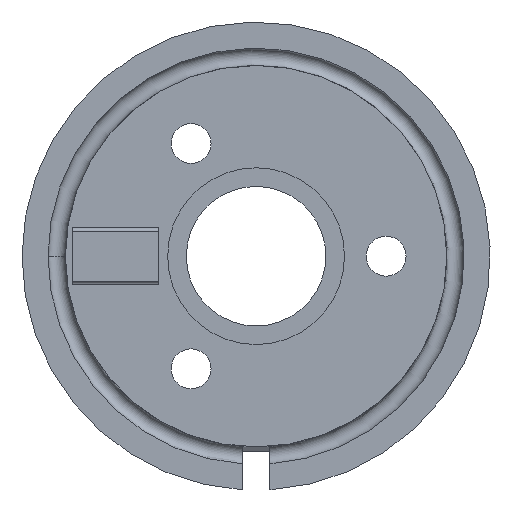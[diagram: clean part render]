
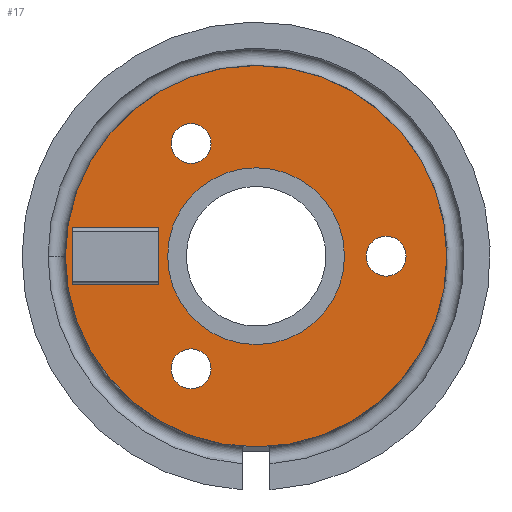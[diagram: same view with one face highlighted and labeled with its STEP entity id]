
A CAD part, left-side view. The second image highlights one B-rep face of the part: STEP entity #17.
In plain terms, the highlighted planar face has unit normal (-1, 0, 0).
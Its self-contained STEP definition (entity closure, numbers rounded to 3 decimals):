
#17 = ADVANCED_FACE('',(#18,#54,#85,#199,#230,#261),#31,.F.);
#18 = FACE_BOUND('',#19,.T.);
#19 = EDGE_LOOP('',(#20));
#20 = ORIENTED_EDGE('',*,*,#21,.F.);
#21 = EDGE_CURVE('',#22,#22,#24,.T.);
#22 = VERTEX_POINT('',#23);
#23 = CARTESIAN_POINT('',(38.6,14.,-17.));
#24 = SURFACE_CURVE('',#25,(#30,#42),.PCURVE_S1.);
#25 = CIRCLE('',#26,11.);
#26 = AXIS2_PLACEMENT_3D('',#27,#28,#29);
#27 = CARTESIAN_POINT('',(38.6,3.,-17.));
#28 = DIRECTION('',(1.,0.,0.));
#29 = DIRECTION('',(0.,1.,0.));
#30 = PCURVE('',#31,#36);
#31 = PLANE('',#32);
#32 = AXIS2_PLACEMENT_3D('',#33,#34,#35);
#33 = CARTESIAN_POINT('',(38.6,3.,-17.));
#34 = DIRECTION('',(1.,0.,0.));
#35 = DIRECTION('',(0.,1.,0.));
#36 = DEFINITIONAL_REPRESENTATION('',(#37),#41);
#37 = CIRCLE('',#38,11.);
#38 = AXIS2_PLACEMENT_2D('',#39,#40);
#39 = CARTESIAN_POINT('',(0.,0.));
#40 = DIRECTION('',(1.,-0.));
#41 = ( GEOMETRIC_REPRESENTATION_CONTEXT(2) 
PARAMETRIC_REPRESENTATION_CONTEXT() REPRESENTATION_CONTEXT('2D SPACE',''
  ) );
#42 = PCURVE('',#43,#48);
#43 = CYLINDRICAL_SURFACE('',#44,11.);
#44 = AXIS2_PLACEMENT_3D('',#45,#46,#47);
#45 = CARTESIAN_POINT('',(38.6,3.,-17.));
#46 = DIRECTION('',(1.,0.,0.));
#47 = DIRECTION('',(0.,1.,0.));
#48 = DEFINITIONAL_REPRESENTATION('',(#49),#53);
#49 = LINE('',#50,#51);
#50 = CARTESIAN_POINT('',(0.,0.));
#51 = VECTOR('',#52,1.);
#52 = DIRECTION('',(1.,0.));
#53 = ( GEOMETRIC_REPRESENTATION_CONTEXT(2) 
PARAMETRIC_REPRESENTATION_CONTEXT() REPRESENTATION_CONTEXT('2D SPACE',''
  ) );
#54 = FACE_BOUND('',#55,.T.);
#55 = EDGE_LOOP('',(#56));
#56 = ORIENTED_EDGE('',*,*,#57,.T.);
#57 = EDGE_CURVE('',#58,#58,#60,.T.);
#58 = VERTEX_POINT('',#59);
#59 = CARTESIAN_POINT('',(38.6,6.75,-24.645));
#60 = SURFACE_CURVE('',#61,(#66,#73),.PCURVE_S1.);
#61 = CIRCLE('',#62,1.15);
#62 = AXIS2_PLACEMENT_3D('',#63,#64,#65);
#63 = CARTESIAN_POINT('',(38.6,6.75,-23.495));
#64 = DIRECTION('',(1.,0.,0.));
#65 = DIRECTION('',(0.,0.,-1.));
#66 = PCURVE('',#31,#67);
#67 = DEFINITIONAL_REPRESENTATION('',(#68),#72);
#68 = CIRCLE('',#69,1.15);
#69 = AXIS2_PLACEMENT_2D('',#70,#71);
#70 = CARTESIAN_POINT('',(3.75,-6.495));
#71 = DIRECTION('',(-0.,-1.));
#72 = ( GEOMETRIC_REPRESENTATION_CONTEXT(2) 
PARAMETRIC_REPRESENTATION_CONTEXT() REPRESENTATION_CONTEXT('2D SPACE',''
  ) );
#73 = PCURVE('',#74,#79);
#74 = CYLINDRICAL_SURFACE('',#75,1.15);
#75 = AXIS2_PLACEMENT_3D('',#76,#77,#78);
#76 = CARTESIAN_POINT('',(36.6,6.75,-23.495));
#77 = DIRECTION('',(1.,0.,0.));
#78 = DIRECTION('',(0.,0.,-1.));
#79 = DEFINITIONAL_REPRESENTATION('',(#80),#84);
#80 = LINE('',#81,#82);
#81 = CARTESIAN_POINT('',(0.,2.));
#82 = VECTOR('',#83,1.);
#83 = DIRECTION('',(1.,0.));
#84 = ( GEOMETRIC_REPRESENTATION_CONTEXT(2) 
PARAMETRIC_REPRESENTATION_CONTEXT() REPRESENTATION_CONTEXT('2D SPACE',''
  ) );
#85 = FACE_BOUND('',#86,.T.);
#86 = EDGE_LOOP('',(#87,#117,#145,#173));
#87 = ORIENTED_EDGE('',*,*,#88,.T.);
#88 = EDGE_CURVE('',#89,#91,#93,.T.);
#89 = VERTEX_POINT('',#90);
#90 = CARTESIAN_POINT('',(38.6,8.6,-15.35));
#91 = VERTEX_POINT('',#92);
#92 = CARTESIAN_POINT('',(38.6,8.6,-18.65));
#93 = SURFACE_CURVE('',#94,(#98,#105),.PCURVE_S1.);
#94 = LINE('',#95,#96);
#95 = CARTESIAN_POINT('',(38.6,8.6,-15.35));
#96 = VECTOR('',#97,1.);
#97 = DIRECTION('',(0.,0.,-1.));
#98 = PCURVE('',#31,#99);
#99 = DEFINITIONAL_REPRESENTATION('',(#100),#104);
#100 = LINE('',#101,#102);
#101 = CARTESIAN_POINT('',(5.6,1.65));
#102 = VECTOR('',#103,1.);
#103 = DIRECTION('',(-0.,-1.));
#104 = ( GEOMETRIC_REPRESENTATION_CONTEXT(2) 
PARAMETRIC_REPRESENTATION_CONTEXT() REPRESENTATION_CONTEXT('2D SPACE',''
  ) );
#105 = PCURVE('',#106,#111);
#106 = PLANE('',#107);
#107 = AXIS2_PLACEMENT_3D('',#108,#109,#110);
#108 = CARTESIAN_POINT('',(37.,8.6,-18.45));
#109 = DIRECTION('',(0.,1.,0.));
#110 = DIRECTION('',(0.,0.,1.));
#111 = DEFINITIONAL_REPRESENTATION('',(#112),#116);
#112 = LINE('',#113,#114);
#113 = CARTESIAN_POINT('',(3.1,1.6));
#114 = VECTOR('',#115,1.);
#115 = DIRECTION('',(-1.,0.));
#116 = ( GEOMETRIC_REPRESENTATION_CONTEXT(2) 
PARAMETRIC_REPRESENTATION_CONTEXT() REPRESENTATION_CONTEXT('2D SPACE',''
  ) );
#117 = ORIENTED_EDGE('',*,*,#118,.T.);
#118 = EDGE_CURVE('',#91,#119,#121,.T.);
#119 = VERTEX_POINT('',#120);
#120 = CARTESIAN_POINT('',(38.6,13.6,-18.65));
#121 = SURFACE_CURVE('',#122,(#126,#133),.PCURVE_S1.);
#122 = LINE('',#123,#124);
#123 = CARTESIAN_POINT('',(38.6,8.6,-18.65));
#124 = VECTOR('',#125,1.);
#125 = DIRECTION('',(0.,1.,0.));
#126 = PCURVE('',#31,#127);
#127 = DEFINITIONAL_REPRESENTATION('',(#128),#132);
#128 = LINE('',#129,#130);
#129 = CARTESIAN_POINT('',(5.6,-1.65));
#130 = VECTOR('',#131,1.);
#131 = DIRECTION('',(1.,-0.));
#132 = ( GEOMETRIC_REPRESENTATION_CONTEXT(2) 
PARAMETRIC_REPRESENTATION_CONTEXT() REPRESENTATION_CONTEXT('2D SPACE',''
  ) );
#133 = PCURVE('',#134,#139);
#134 = CYLINDRICAL_SURFACE('',#135,0.2);
#135 = AXIS2_PLACEMENT_3D('',#136,#137,#138);
#136 = CARTESIAN_POINT('',(38.4,8.6,-18.65));
#137 = DIRECTION('',(0.,1.,0.));
#138 = DIRECTION('',(1.,0.,-0.));
#139 = DEFINITIONAL_REPRESENTATION('',(#140),#144);
#140 = LINE('',#141,#142);
#141 = CARTESIAN_POINT('',(-0.,0.));
#142 = VECTOR('',#143,1.);
#143 = DIRECTION('',(-0.,1.));
#144 = ( GEOMETRIC_REPRESENTATION_CONTEXT(2) 
PARAMETRIC_REPRESENTATION_CONTEXT() REPRESENTATION_CONTEXT('2D SPACE',''
  ) );
#145 = ORIENTED_EDGE('',*,*,#146,.T.);
#146 = EDGE_CURVE('',#119,#147,#149,.T.);
#147 = VERTEX_POINT('',#148);
#148 = CARTESIAN_POINT('',(38.6,13.6,-15.35));
#149 = SURFACE_CURVE('',#150,(#154,#161),.PCURVE_S1.);
#150 = LINE('',#151,#152);
#151 = CARTESIAN_POINT('',(38.6,13.6,-18.65));
#152 = VECTOR('',#153,1.);
#153 = DIRECTION('',(0.,0.,1.));
#154 = PCURVE('',#31,#155);
#155 = DEFINITIONAL_REPRESENTATION('',(#156),#160);
#156 = LINE('',#157,#158);
#157 = CARTESIAN_POINT('',(10.6,-1.65));
#158 = VECTOR('',#159,1.);
#159 = DIRECTION('',(-0.,1.));
#160 = ( GEOMETRIC_REPRESENTATION_CONTEXT(2) 
PARAMETRIC_REPRESENTATION_CONTEXT() REPRESENTATION_CONTEXT('2D SPACE',''
  ) );
#161 = PCURVE('',#162,#167);
#162 = PLANE('',#163);
#163 = AXIS2_PLACEMENT_3D('',#164,#165,#166);
#164 = CARTESIAN_POINT('',(37.,13.6,-18.45));
#165 = DIRECTION('',(0.,1.,0.));
#166 = DIRECTION('',(0.,0.,1.));
#167 = DEFINITIONAL_REPRESENTATION('',(#168),#172);
#168 = LINE('',#169,#170);
#169 = CARTESIAN_POINT('',(-0.2,1.6));
#170 = VECTOR('',#171,1.);
#171 = DIRECTION('',(1.,0.));
#172 = ( GEOMETRIC_REPRESENTATION_CONTEXT(2) 
PARAMETRIC_REPRESENTATION_CONTEXT() REPRESENTATION_CONTEXT('2D SPACE',''
  ) );
#173 = ORIENTED_EDGE('',*,*,#174,.F.);
#174 = EDGE_CURVE('',#89,#147,#175,.T.);
#175 = SURFACE_CURVE('',#176,(#180,#187),.PCURVE_S1.);
#176 = LINE('',#177,#178);
#177 = CARTESIAN_POINT('',(38.6,8.6,-15.35));
#178 = VECTOR('',#179,1.);
#179 = DIRECTION('',(0.,1.,0.));
#180 = PCURVE('',#31,#181);
#181 = DEFINITIONAL_REPRESENTATION('',(#182),#186);
#182 = LINE('',#183,#184);
#183 = CARTESIAN_POINT('',(5.6,1.65));
#184 = VECTOR('',#185,1.);
#185 = DIRECTION('',(1.,-0.));
#186 = ( GEOMETRIC_REPRESENTATION_CONTEXT(2) 
PARAMETRIC_REPRESENTATION_CONTEXT() REPRESENTATION_CONTEXT('2D SPACE',''
  ) );
#187 = PCURVE('',#188,#193);
#188 = CYLINDRICAL_SURFACE('',#189,0.2);
#189 = AXIS2_PLACEMENT_3D('',#190,#191,#192);
#190 = CARTESIAN_POINT('',(38.4,8.6,-15.35));
#191 = DIRECTION('',(0.,1.,0.));
#192 = DIRECTION('',(1.,0.,-0.));
#193 = DEFINITIONAL_REPRESENTATION('',(#194),#198);
#194 = LINE('',#195,#196);
#195 = CARTESIAN_POINT('',(0.,0.));
#196 = VECTOR('',#197,1.);
#197 = DIRECTION('',(0.,1.));
#198 = ( GEOMETRIC_REPRESENTATION_CONTEXT(2) 
PARAMETRIC_REPRESENTATION_CONTEXT() REPRESENTATION_CONTEXT('2D SPACE',''
  ) );
#199 = FACE_BOUND('',#200,.T.);
#200 = EDGE_LOOP('',(#201));
#201 = ORIENTED_EDGE('',*,*,#202,.T.);
#202 = EDGE_CURVE('',#203,#203,#205,.T.);
#203 = VERTEX_POINT('',#204);
#204 = CARTESIAN_POINT('',(38.6,6.75,-11.655));
#205 = SURFACE_CURVE('',#206,(#211,#218),.PCURVE_S1.);
#206 = CIRCLE('',#207,1.15);
#207 = AXIS2_PLACEMENT_3D('',#208,#209,#210);
#208 = CARTESIAN_POINT('',(38.6,6.75,-10.505));
#209 = DIRECTION('',(1.,0.,0.));
#210 = DIRECTION('',(0.,0.,-1.));
#211 = PCURVE('',#31,#212);
#212 = DEFINITIONAL_REPRESENTATION('',(#213),#217);
#213 = CIRCLE('',#214,1.15);
#214 = AXIS2_PLACEMENT_2D('',#215,#216);
#215 = CARTESIAN_POINT('',(3.75,6.495));
#216 = DIRECTION('',(-0.,-1.));
#217 = ( GEOMETRIC_REPRESENTATION_CONTEXT(2) 
PARAMETRIC_REPRESENTATION_CONTEXT() REPRESENTATION_CONTEXT('2D SPACE',''
  ) );
#218 = PCURVE('',#219,#224);
#219 = CYLINDRICAL_SURFACE('',#220,1.15);
#220 = AXIS2_PLACEMENT_3D('',#221,#222,#223);
#221 = CARTESIAN_POINT('',(36.6,6.75,-10.505));
#222 = DIRECTION('',(1.,0.,0.));
#223 = DIRECTION('',(0.,0.,-1.));
#224 = DEFINITIONAL_REPRESENTATION('',(#225),#229);
#225 = LINE('',#226,#227);
#226 = CARTESIAN_POINT('',(0.,2.));
#227 = VECTOR('',#228,1.);
#228 = DIRECTION('',(1.,0.));
#229 = ( GEOMETRIC_REPRESENTATION_CONTEXT(2) 
PARAMETRIC_REPRESENTATION_CONTEXT() REPRESENTATION_CONTEXT('2D SPACE',''
  ) );
#230 = FACE_BOUND('',#231,.T.);
#231 = EDGE_LOOP('',(#232));
#232 = ORIENTED_EDGE('',*,*,#233,.T.);
#233 = EDGE_CURVE('',#234,#234,#236,.T.);
#234 = VERTEX_POINT('',#235);
#235 = CARTESIAN_POINT('',(38.6,3.,-22.1));
#236 = SURFACE_CURVE('',#237,(#242,#249),.PCURVE_S1.);
#237 = CIRCLE('',#238,5.1);
#238 = AXIS2_PLACEMENT_3D('',#239,#240,#241);
#239 = CARTESIAN_POINT('',(38.6,3.,-17.));
#240 = DIRECTION('',(1.,0.,0.));
#241 = DIRECTION('',(0.,0.,-1.));
#242 = PCURVE('',#31,#243);
#243 = DEFINITIONAL_REPRESENTATION('',(#244),#248);
#244 = CIRCLE('',#245,5.1);
#245 = AXIS2_PLACEMENT_2D('',#246,#247);
#246 = CARTESIAN_POINT('',(0.,0.));
#247 = DIRECTION('',(-0.,-1.));
#248 = ( GEOMETRIC_REPRESENTATION_CONTEXT(2) 
PARAMETRIC_REPRESENTATION_CONTEXT() REPRESENTATION_CONTEXT('2D SPACE',''
  ) );
#249 = PCURVE('',#250,#255);
#250 = CYLINDRICAL_SURFACE('',#251,5.1);
#251 = AXIS2_PLACEMENT_3D('',#252,#253,#254);
#252 = CARTESIAN_POINT('',(36.6,3.,-17.));
#253 = DIRECTION('',(1.,0.,0.));
#254 = DIRECTION('',(0.,0.,-1.));
#255 = DEFINITIONAL_REPRESENTATION('',(#256),#260);
#256 = LINE('',#257,#258);
#257 = CARTESIAN_POINT('',(0.,2.));
#258 = VECTOR('',#259,1.);
#259 = DIRECTION('',(1.,0.));
#260 = ( GEOMETRIC_REPRESENTATION_CONTEXT(2) 
PARAMETRIC_REPRESENTATION_CONTEXT() REPRESENTATION_CONTEXT('2D SPACE',''
  ) );
#261 = FACE_BOUND('',#262,.T.);
#262 = EDGE_LOOP('',(#263));
#263 = ORIENTED_EDGE('',*,*,#264,.T.);
#264 = EDGE_CURVE('',#265,#265,#267,.T.);
#265 = VERTEX_POINT('',#266);
#266 = CARTESIAN_POINT('',(38.6,-4.5,-18.15));
#267 = SURFACE_CURVE('',#268,(#273,#280),.PCURVE_S1.);
#268 = CIRCLE('',#269,1.15);
#269 = AXIS2_PLACEMENT_3D('',#270,#271,#272);
#270 = CARTESIAN_POINT('',(38.6,-4.5,-17.));
#271 = DIRECTION('',(1.,0.,0.));
#272 = DIRECTION('',(0.,0.,-1.));
#273 = PCURVE('',#31,#274);
#274 = DEFINITIONAL_REPRESENTATION('',(#275),#279);
#275 = CIRCLE('',#276,1.15);
#276 = AXIS2_PLACEMENT_2D('',#277,#278);
#277 = CARTESIAN_POINT('',(-7.5,0.));
#278 = DIRECTION('',(-0.,-1.));
#279 = ( GEOMETRIC_REPRESENTATION_CONTEXT(2) 
PARAMETRIC_REPRESENTATION_CONTEXT() REPRESENTATION_CONTEXT('2D SPACE',''
  ) );
#280 = PCURVE('',#281,#286);
#281 = CYLINDRICAL_SURFACE('',#282,1.15);
#282 = AXIS2_PLACEMENT_3D('',#283,#284,#285);
#283 = CARTESIAN_POINT('',(36.6,-4.5,-17.));
#284 = DIRECTION('',(1.,0.,0.));
#285 = DIRECTION('',(0.,0.,-1.));
#286 = DEFINITIONAL_REPRESENTATION('',(#287),#291);
#287 = LINE('',#288,#289);
#288 = CARTESIAN_POINT('',(0.,2.));
#289 = VECTOR('',#290,1.);
#290 = DIRECTION('',(1.,0.));
#291 = ( GEOMETRIC_REPRESENTATION_CONTEXT(2) 
PARAMETRIC_REPRESENTATION_CONTEXT() REPRESENTATION_CONTEXT('2D SPACE',''
  ) );
